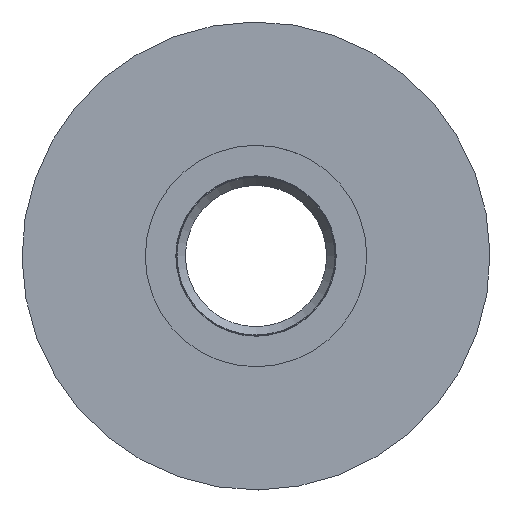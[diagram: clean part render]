
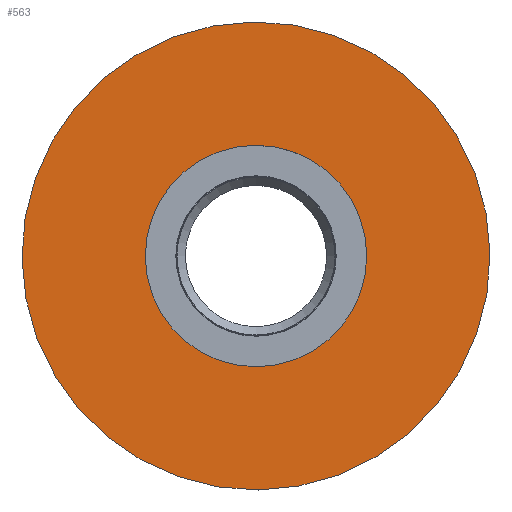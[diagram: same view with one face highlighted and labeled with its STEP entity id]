
A CAD part, top view. The second image highlights one B-rep face of the part: STEP entity #563.
In plain terms, the highlighted planar face has unit normal (0, 0, 1).
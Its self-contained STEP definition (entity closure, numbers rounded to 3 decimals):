
#39=PLANE('',#642);
#98=FACE_BOUND('',#210,.T.);
#139=FACE_OUTER_BOUND('',#209,.T.);
#209=EDGE_LOOP('',(#437));
#210=EDGE_LOOP('',(#438));
#270=CIRCLE('',#639,92.5);
#272=CIRCLE('',#643,195.5);
#310=VERTEX_POINT('',#914);
#312=VERTEX_POINT('',#920);
#358=EDGE_CURVE('',#310,#310,#270,.T.);
#360=EDGE_CURVE('',#312,#312,#272,.T.);
#437=ORIENTED_EDGE('',*,*,#360,.T.);
#438=ORIENTED_EDGE('',*,*,#358,.F.);
#563=ADVANCED_FACE('',(#139,#98),#39,.T.);
#639=AXIS2_PLACEMENT_3D('',#915,#771,#772);
#642=AXIS2_PLACEMENT_3D('',#919,#777,#778);
#643=AXIS2_PLACEMENT_3D('',#921,#779,#780);
#771=DIRECTION('center_axis',(0.,0.,
1.));
#772=DIRECTION('ref_axis',(-1.,-0.01,0.));
#777=DIRECTION('center_axis',(0.,0.,
1.));
#778=DIRECTION('ref_axis',(-1.,-0.01,0.));
#779=DIRECTION('center_axis',(0.,0.,
1.));
#780=DIRECTION('ref_axis',(-1.,-0.01,0.));
#914=CARTESIAN_POINT('',(92.495,0.933,1.25));
#915=CARTESIAN_POINT('Origin',(0.,0.,
1.25));
#919=CARTESIAN_POINT('Origin',(193.465,202.693,1.25));
#920=CARTESIAN_POINT('',(195.49,1.972,1.25));
#921=CARTESIAN_POINT('Origin',(0.,0.,
1.25));
